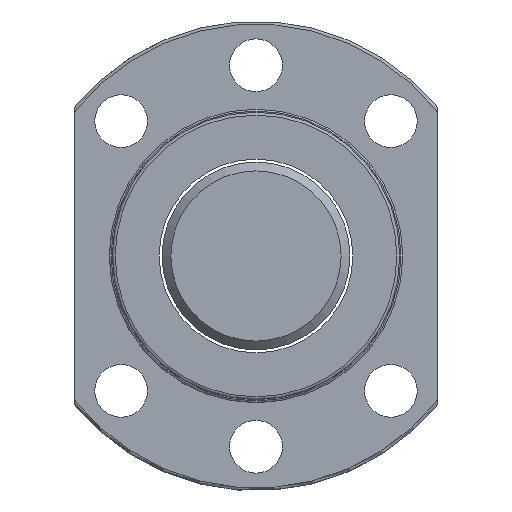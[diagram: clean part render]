
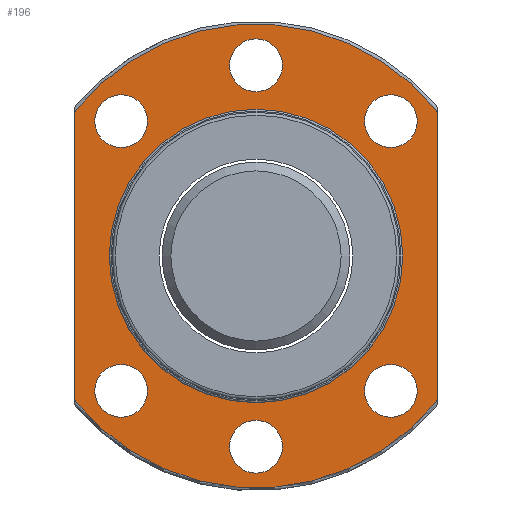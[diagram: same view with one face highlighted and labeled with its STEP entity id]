
A CAD part, left-side view. The second image highlights one B-rep face of the part: STEP entity #196.
In plain terms, the highlighted planar face has unit normal (-1, 0, 0).
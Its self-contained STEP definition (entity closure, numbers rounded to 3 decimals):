
#103=LINE('',#1286,#111);
#104=LINE('',#1287,#112);
#111=VECTOR('',#925,1.);
#112=VECTOR('',#926,1.);
#147=PLANE('',#790);
#169=FACE_OUTER_BOUND('',#353,.T.);
#196=ADVANCED_FACE('',(#169,#268,#269,#270,#271,#272,#273,#274),#147,.T.);
#268=FACE_BOUND('',#354,.T.);
#269=FACE_BOUND('',#355,.T.);
#270=FACE_BOUND('',#356,.T.);
#271=FACE_BOUND('',#357,.T.);
#272=FACE_BOUND('',#358,.T.);
#273=FACE_BOUND('',#359,.T.);
#274=FACE_BOUND('',#360,.T.);
#353=EDGE_LOOP('',(#474,#475,#476,#477));
#354=EDGE_LOOP('',(#478));
#355=EDGE_LOOP('',(#479));
#356=EDGE_LOOP('',(#480));
#357=EDGE_LOOP('',(#481));
#358=EDGE_LOOP('',(#482));
#359=EDGE_LOOP('',(#483));
#360=EDGE_LOOP('',(#484));
#474=ORIENTED_EDGE('',*,*,#662,.F.);
#475=ORIENTED_EDGE('',*,*,#642,.F.);
#476=ORIENTED_EDGE('',*,*,#663,.T.);
#477=ORIENTED_EDGE('',*,*,#660,.F.);
#478=ORIENTED_EDGE('',*,*,#664,.T.);
#479=ORIENTED_EDGE('',*,*,#665,.F.);
#480=ORIENTED_EDGE('',*,*,#666,.F.);
#481=ORIENTED_EDGE('',*,*,#667,.F.);
#482=ORIENTED_EDGE('',*,*,#668,.F.);
#483=ORIENTED_EDGE('',*,*,#669,.F.);
#484=ORIENTED_EDGE('',*,*,#670,.F.);
#578=VERTEX_POINT('',#1153);
#579=VERTEX_POINT('',#1173);
#593=VERTEX_POINT('',#1263);
#594=VERTEX_POINT('',#1265);
#595=VERTEX_POINT('',#1289);
#596=VERTEX_POINT('',#1291);
#597=VERTEX_POINT('',#1293);
#598=VERTEX_POINT('',#1295);
#599=VERTEX_POINT('',#1297);
#600=VERTEX_POINT('',#1299);
#601=VERTEX_POINT('',#1301);
#642=EDGE_CURVE('',#579,#578,#705,.T.);
#660=EDGE_CURVE('',#593,#594,#716,.T.);
#662=EDGE_CURVE('',#578,#593,#103,.T.);
#663=EDGE_CURVE('',#579,#594,#104,.T.);
#664=EDGE_CURVE('',#595,#595,#717,.T.);
#665=EDGE_CURVE('',#596,#596,#718,.T.);
#666=EDGE_CURVE('',#597,#597,#719,.T.);
#667=EDGE_CURVE('',#598,#598,#720,.T.);
#668=EDGE_CURVE('',#599,#599,#721,.T.);
#669=EDGE_CURVE('',#600,#600,#722,.T.);
#670=EDGE_CURVE('',#601,#601,#723,.T.);
#705=CIRCLE('',#766,39.5);
#716=CIRCLE('',#781,39.5);
#717=CIRCLE('',#783,25.);
#718=CIRCLE('',#784,4.5);
#719=CIRCLE('',#785,4.5);
#720=CIRCLE('',#786,4.5);
#721=CIRCLE('',#787,4.5);
#722=CIRCLE('',#788,4.5);
#723=CIRCLE('',#789,4.5);
#766=AXIS2_PLACEMENT_3D('',#1174,#887,#888);
#781=AXIS2_PLACEMENT_3D('',#1264,#921,#922);
#783=AXIS2_PLACEMENT_3D('',#1288,#927,#928);
#784=AXIS2_PLACEMENT_3D('',#1290,#929,#930);
#785=AXIS2_PLACEMENT_3D('',#1292,#931,#932);
#786=AXIS2_PLACEMENT_3D('',#1294,#933,#934);
#787=AXIS2_PLACEMENT_3D('',#1296,#935,#936);
#788=AXIS2_PLACEMENT_3D('',#1298,#937,#938);
#789=AXIS2_PLACEMENT_3D('',#1300,#939,#940);
#790=AXIS2_PLACEMENT_3D('',#1302,#941,#942);
#887=DIRECTION('',(1.,0.,0.));
#888=DIRECTION('',(0.,1.,0.));
#921=DIRECTION('',(1.,0.,0.));
#922=DIRECTION('',(0.,1.,0.));
#925=DIRECTION('',(0.,0.,1.));
#926=DIRECTION('',(0.,0.,1.));
#927=DIRECTION('',(1.,0.,0.));
#928=DIRECTION('',(0.,1.,0.));
#929=DIRECTION('',(-1.,0.,0.));
#930=DIRECTION('',(0.,-1.,0.));
#931=DIRECTION('',(-1.,0.,0.));
#932=DIRECTION('',(0.,-1.,0.));
#933=DIRECTION('',(-1.,0.,0.));
#934=DIRECTION('',(0.,-1.,0.));
#935=DIRECTION('',(-1.,0.,0.));
#936=DIRECTION('',(0.,-1.,0.));
#937=DIRECTION('',(-1.,0.,0.));
#938=DIRECTION('',(0.,-1.,0.));
#939=DIRECTION('',(-1.,0.,0.));
#940=DIRECTION('',(0.,-1.,0.));
#941=DIRECTION('',(-1.,0.,0.));
#942=DIRECTION('',(0.,-1.,0.));
#1153=CARTESIAN_POINT('',(-27.,31.,-24.48));
#1173=CARTESIAN_POINT('',(-27.,-31.,-24.48));
#1174=CARTESIAN_POINT('',(-27.,0.,0.));
#1263=CARTESIAN_POINT('',(-27.,31.,24.48));
#1264=CARTESIAN_POINT('',(-27.,0.,0.));
#1265=CARTESIAN_POINT('',(-27.,-31.,24.48));
#1286=CARTESIAN_POINT('',(-27.,31.,0.));
#1287=CARTESIAN_POINT('',(-27.,-31.,0.));
#1288=CARTESIAN_POINT('',(-27.,0.,0.));
#1289=CARTESIAN_POINT('',(-27.,25.,0.));
#1290=CARTESIAN_POINT('',(-27.,22.981,22.981));
#1291=CARTESIAN_POINT('',(-27.,18.481,22.981));
#1292=CARTESIAN_POINT('',(-27.,-22.981,22.981));
#1293=CARTESIAN_POINT('',(-27.,-27.481,22.981));
#1294=CARTESIAN_POINT('',(-27.,-22.981,-22.981));
#1295=CARTESIAN_POINT('',(-27.,-27.481,-22.981));
#1296=CARTESIAN_POINT('',(-27.,22.981,-22.981));
#1297=CARTESIAN_POINT('',(-27.,18.481,-22.981));
#1298=CARTESIAN_POINT('',(-27.,0.,32.5));
#1299=CARTESIAN_POINT('',(-27.,-4.5,32.5));
#1300=CARTESIAN_POINT('',(-27.,0.,-32.5));
#1301=CARTESIAN_POINT('',(-27.,-4.5,-32.5));
#1302=CARTESIAN_POINT('',(-27.,32.25,0.));
